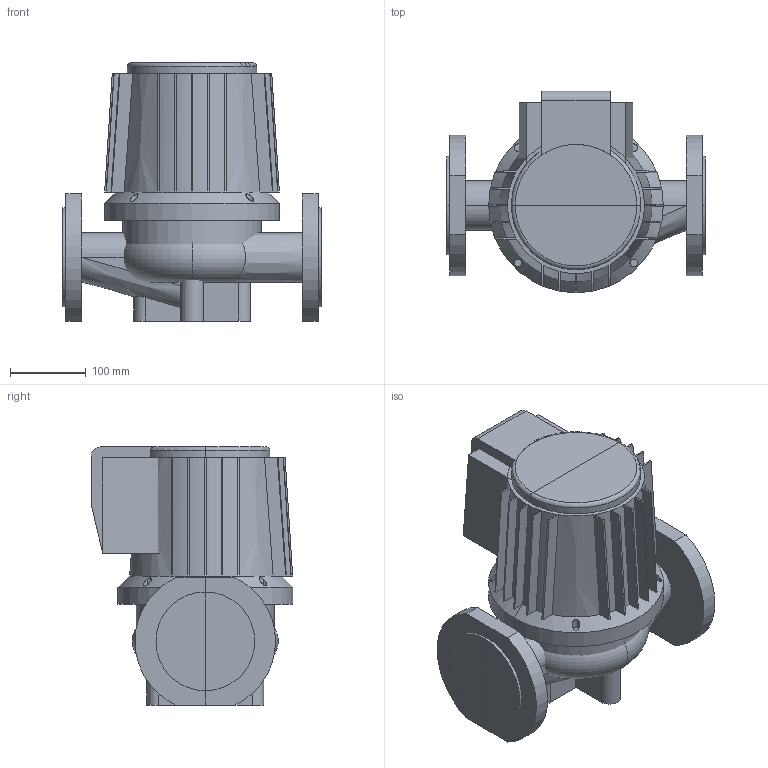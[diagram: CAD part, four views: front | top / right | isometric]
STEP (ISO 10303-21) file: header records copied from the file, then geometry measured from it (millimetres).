
FILE_DESCRIPTION(/* description */ (''),/* implementation_level */ '2;1');
FILE_NAME(/* name */ 'C:\Users\a.zyazeva\Desktop\Wellmix\TG TD WRE WRS\WRS 65-90 SF (380 В).stp',/* time_stamp */ '2024-08-28T00:50:37+03:00',/* author */ ('a.zyazeva'),/* organization */ (''),/* preprocessor_version */ 'ST-DEVELOPER v18.1',/* originating_system */ 'Autodesk Inventor 2022',/* authorisation */ '');
FILE_SCHEMA (('AUTOMOTIVE_DESIGN { 1 0 10303 214 3 1 1 }'));
Length unit declared in the file: millimetre
Products named in the file (1): WRS 65-90 SF (380 В)
Bounding box: 340 x 265 x 340 mm (x, y, z)
Volume: 14406677.6 mm3; surface area: 861991.9 mm2
Topology: 6 solids, 6 shells, 175 faces, 427 edges, 265 vertices
Faces by surface type: plane 105, cylinder 30, cone 17, bspline 17, torus 6
Entity records: 6672 total; most frequent: CARTESIAN_POINT 2759, ORIENTED_EDGE 854, DIRECTION 725, EDGE_CURVE 427, VERTEX_POINT 265, AXIS2_PLACEMENT_3D 258, LINE 209, VECTOR 209
